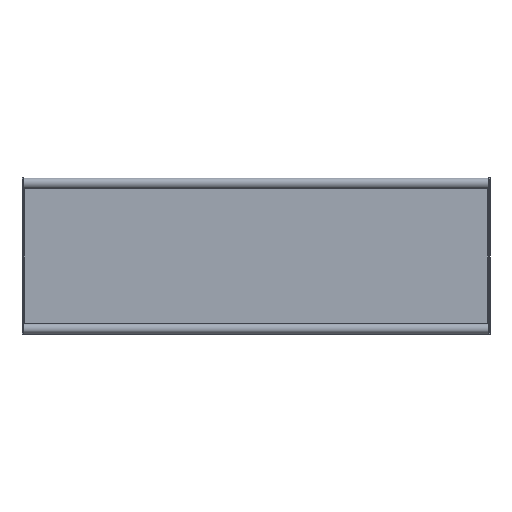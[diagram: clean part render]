
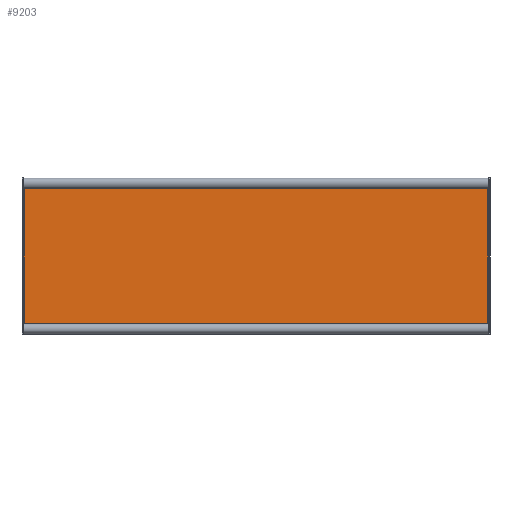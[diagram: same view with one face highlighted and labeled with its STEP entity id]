
A CAD part, front view. The second image highlights one B-rep face of the part: STEP entity #9203.
In plain terms, the highlighted planar face has unit normal (0, -1, 0).
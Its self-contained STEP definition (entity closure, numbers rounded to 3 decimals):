
#116 = DIRECTION ( 'NONE',  ( 0., -1., 0. ) ) ;
#208 = ORIENTED_EDGE ( 'NONE', *, *, #9386, .F. ) ;
#230 = ORIENTED_EDGE ( 'NONE', *, *, #5541, .F. ) ;
#505 = CARTESIAN_POINT ( 'NONE',  ( -445., -2., 146. ) ) ;
#525 = ORIENTED_EDGE ( 'NONE', *, *, #1169, .F. ) ;
#550 = DIRECTION ( 'NONE',  ( 0., 0., 1. ) ) ;
#704 = ORIENTED_EDGE ( 'NONE', *, *, #6471, .T. ) ;
#842 = CIRCLE ( 'NONE', #2134, 5. ) ;
#1169 = EDGE_CURVE ( 'NONE', #7431, #4131, #9884, .T. ) ;
#1288 = DIRECTION ( 'NONE',  ( 0., 0., 1. ) ) ;
#1303 = CARTESIAN_POINT ( 'NONE',  ( -446., -2., 145. ) ) ;
#1393 = DIRECTION ( 'NONE',  ( 0., -1., 0. ) ) ;
#1615 = EDGE_CURVE ( 'NONE', #2746, #9506, #4937, .T. ) ;
#1981 = VECTOR ( 'NONE', #550, 1000. ) ;
#2134 = AXIS2_PLACEMENT_3D ( 'NONE', #4464, #9920, #8381 ) ;
#2433 = EDGE_LOOP ( 'NONE', ( #4469, #704, #4957, #208, #4812, #525, #230, #3885 ) ) ;
#2492 = AXIS2_PLACEMENT_3D ( 'NONE', #3033, #1393, #1288 ) ;
#2519 = CARTESIAN_POINT ( 'NONE',  ( 445., -2., 146. ) ) ;
#2746 = VERTEX_POINT ( 'NONE', #9976 ) ;
#2801 = DIRECTION ( 'NONE',  ( 0., 1., 0. ) ) ;
#2817 = DIRECTION ( 'NONE',  ( 0., 0., 1. ) ) ;
#2889 = DIRECTION ( 'NONE',  ( 0., 0., 1. ) ) ;
#3033 = CARTESIAN_POINT ( 'NONE',  ( -449., -2., 149. ) ) ;
#3151 = AXIS2_PLACEMENT_3D ( 'NONE', #9789, #6532, #2817 ) ;
#3234 = VERTEX_POINT ( 'NONE', #6490 ) ;
#3530 = VERTEX_POINT ( 'NONE', #505 ) ;
#3749 = CARTESIAN_POINT ( 'NONE',  ( -446., -2., -145. ) ) ;
#3885 = ORIENTED_EDGE ( 'NONE', *, *, #7012, .T. ) ;
#3994 = CARTESIAN_POINT ( 'NONE',  ( 449., -2., 149. ) ) ;
#4131 = VERTEX_POINT ( 'NONE', #1303 ) ;
#4464 = CARTESIAN_POINT ( 'NONE',  ( -449., -2., -149. ) ) ;
#4469 = ORIENTED_EDGE ( 'NONE', *, *, #1615, .F. ) ;
#4480 = CARTESIAN_POINT ( 'NONE',  ( -449., -2., -149. ) ) ;
#4492 = VERTEX_POINT ( 'NONE', #7476 ) ;
#4504 = CARTESIAN_POINT ( 'NONE',  ( 445., -2., -146. ) ) ;
#4632 = AXIS2_PLACEMENT_3D ( 'NONE', #4480, #2801, #5921 ) ;
#4812 = ORIENTED_EDGE ( 'NONE', *, *, #7513, .F. ) ;
#4933 = VECTOR ( 'NONE', #2889, 1000. ) ;
#4937 = CIRCLE ( 'NONE', #3151, 5. ) ;
#4957 = ORIENTED_EDGE ( 'NONE', *, *, #8523, .F. ) ;
#4958 = VECTOR ( 'NONE', #5549, 1000. ) ;
#5245 = PLANE ( 'NONE',  #4632 ) ;
#5279 = AXIS2_PLACEMENT_3D ( 'NONE', #3994, #116, #7886 ) ;
#5352 = CARTESIAN_POINT ( 'NONE',  ( -449., -2., -146. ) ) ;
#5541 = EDGE_CURVE ( 'NONE', #3234, #7431, #842, .T. ) ;
#5549 = DIRECTION ( 'NONE',  ( 1., 0., 0. ) ) ;
#5921 = DIRECTION ( 'NONE',  ( 0., 0., 1. ) ) ;
#6076 = VECTOR ( 'NONE', #10000, 1000. ) ;
#6471 = EDGE_CURVE ( 'NONE', #2746, #4492, #8431, .T. ) ;
#6490 = CARTESIAN_POINT ( 'NONE',  ( -445., -2., -146. ) ) ;
#6532 = DIRECTION ( 'NONE',  ( 0., -1., 0. ) ) ;
#6638 = VERTEX_POINT ( 'NONE', #2519 ) ;
#6908 = CARTESIAN_POINT ( 'NONE',  ( 446., -2., -149. ) ) ;
#7012 = EDGE_CURVE ( 'NONE', #3234, #9506, #7576, .T. ) ;
#7431 = VERTEX_POINT ( 'NONE', #3749 ) ;
#7476 = CARTESIAN_POINT ( 'NONE',  ( 446., -2., 145. ) ) ;
#7513 = EDGE_CURVE ( 'NONE', #4131, #3530, #7846, .T. ) ;
#7576 = LINE ( 'NONE', #5352, #6076 ) ;
#7846 = CIRCLE ( 'NONE', #2492, 5. ) ;
#7886 = DIRECTION ( 'NONE',  ( 0., 0., 1. ) ) ;
#7968 = CARTESIAN_POINT ( 'NONE',  ( -449., -2., 146. ) ) ;
#8344 = CARTESIAN_POINT ( 'NONE',  ( -446., -2., -149. ) ) ;
#8381 = DIRECTION ( 'NONE',  ( 0., 0., 1. ) ) ;
#8431 = LINE ( 'NONE', #6908, #4933 ) ;
#8523 = EDGE_CURVE ( 'NONE', #6638, #4492, #9502, .T. ) ;
#8798 = LINE ( 'NONE', #7968, #4958 ) ;
#9203 = ADVANCED_FACE ( 'NONE', ( #9781 ), #5245, .F. ) ;
#9386 = EDGE_CURVE ( 'NONE', #3530, #6638, #8798, .T. ) ;
#9502 = CIRCLE ( 'NONE', #5279, 5. ) ;
#9506 = VERTEX_POINT ( 'NONE', #4504 ) ;
#9781 = FACE_OUTER_BOUND ( 'NONE', #2433, .T. ) ;
#9789 = CARTESIAN_POINT ( 'NONE',  ( 449., -2., -149. ) ) ;
#9884 = LINE ( 'NONE', #8344, #1981 ) ;
#9920 = DIRECTION ( 'NONE',  ( 0., -1., 0. ) ) ;
#9976 = CARTESIAN_POINT ( 'NONE',  ( 446., -2., -145. ) ) ;
#10000 = DIRECTION ( 'NONE',  ( 1., 0., 0. ) ) ;
